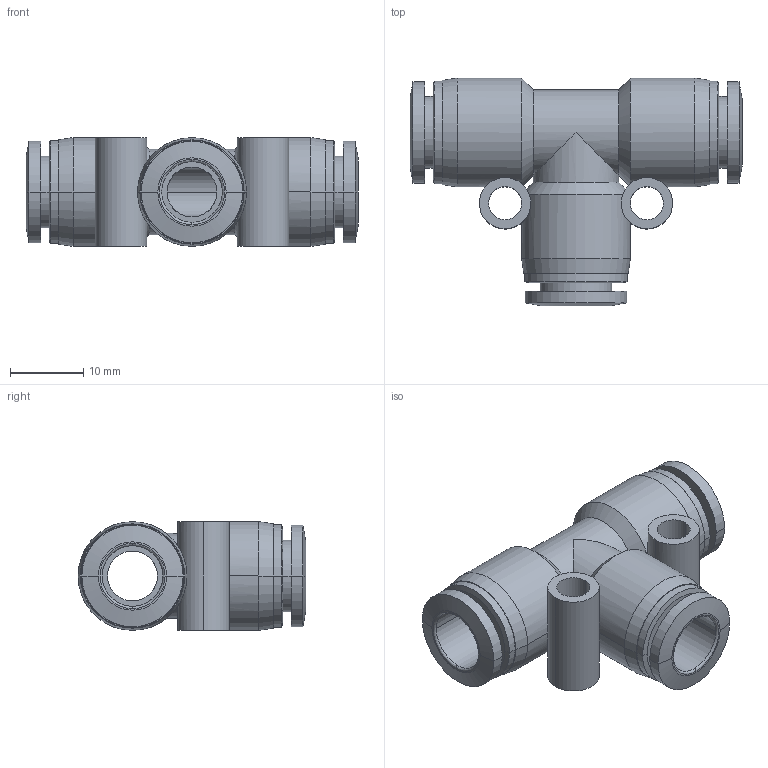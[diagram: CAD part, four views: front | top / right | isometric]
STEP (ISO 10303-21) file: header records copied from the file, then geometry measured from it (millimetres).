
FILE_DESCRIPTION (( 'STEP AP203' ), '1' );
FILE_NAME ('FT08-00.STEP', '2020-04-28T13:43:51', ( '' ), ( '' ), 'SwSTEP 2.0', 'SolidWorks 2019', '' );
FILE_SCHEMA (( 'CONFIG_CONTROL_DESIGN' ));
Length unit declared in the file: millimetre
Products named in the file (1): FT08-00
Bounding box: 45.2 x 31 x 14.8 mm (x, y, z)
Volume: 6538.5 mm3; surface area: 5954.4 mm2
Topology: 1 solids, 1 shells, 95 faces, 224 edges, 140 vertices
Faces by surface type: cylinder 46, cone 24, plane 19, bspline 6
Entity records: 3498 total; most frequent: CARTESIAN_POINT 1211, DIRECTION 488, ORIENTED_EDGE 448, EDGE_CURVE 224, AXIS2_PLACEMENT_3D 208, VERTEX_POINT 140, CIRCLE 118, EDGE_LOOP 116
